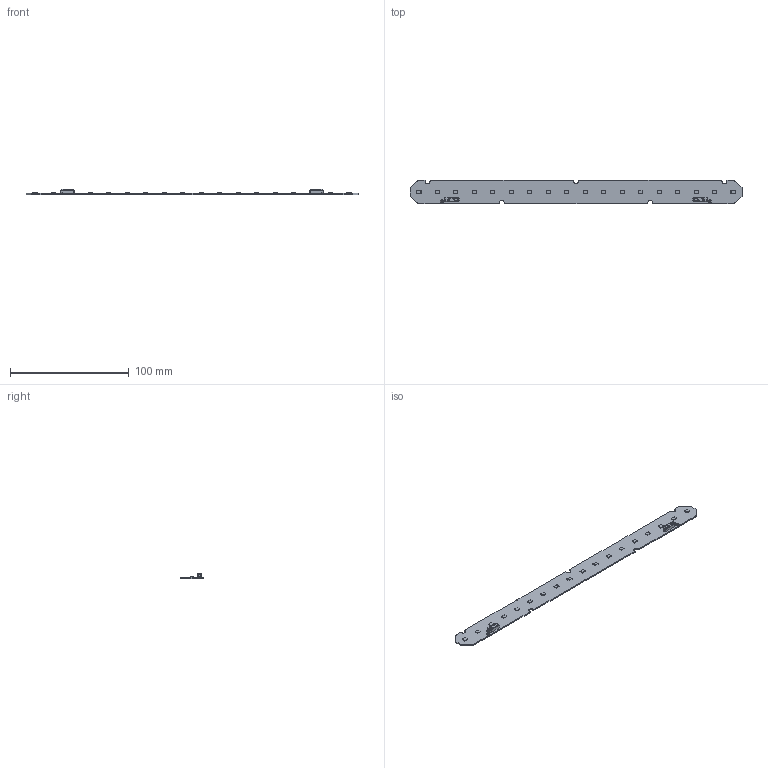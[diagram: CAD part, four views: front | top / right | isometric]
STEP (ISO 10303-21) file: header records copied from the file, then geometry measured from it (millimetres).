
FILE_DESCRIPTION(/* description */ ('Unknown'),/* implementation_level */ '2;1');
FILE_NAME(/* name */ 'LinLED 280x20mm 550lm 2C 18V sh-000 2025-05-22',/* time_stamp */ '2025-05-22T12:17:27+02:00',/* author */ ('Unknown'),/* organization */ ('Unknown'),/* preprocessor_version */ 'ST-DEVELOPER v18.102',/* originating_system */ 'Solid Edge',/* authorisation */ 'Unknown');
FILE_SCHEMA (('AUTOMOTIVE_DESIGN {1 0 10303 214 3 1 1}'));
Length unit declared in the file: millimetre
Products named in the file (1): LinLED 280x20mm 550lm 2C 18V sh-000 2025-05-22
Bounding box: 279.6 x 20 x 4.45 mm (x, y, z)
Volume: 5797.6 mm3; surface area: 12066.2 mm2
Topology: 1 solids, 1 shells, 829 faces, 2164 edges, 1372 vertices
Faces by surface type: plane 511, cylinder 155, torus 68, cone 50, bspline 24, sphere 21
Entity records: 31872 total; most frequent: CARTESIAN_POINT 6571, ORIENTED_EDGE 4256, DIRECTION 3618, EDGE_CURVE 2128, LINE 1462, VECTOR 1462, VERTEX_POINT 1361, AXIS2_PLACEMENT_3D 1078
